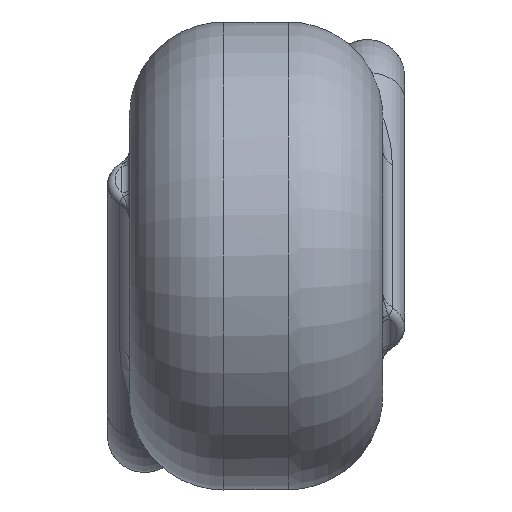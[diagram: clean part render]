
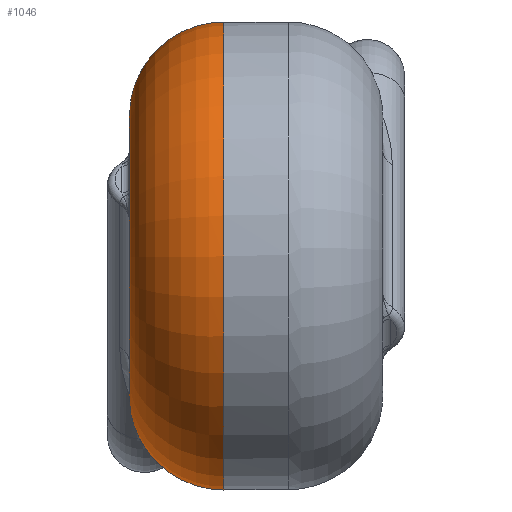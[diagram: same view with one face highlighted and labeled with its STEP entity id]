
A CAD part, left-side view. The second image highlights one B-rep face of the part: STEP entity #1046.
In plain terms, the highlighted toroidal (fillet/blend) face has major radius 3.7 mm and minor radius 2.5 mm.
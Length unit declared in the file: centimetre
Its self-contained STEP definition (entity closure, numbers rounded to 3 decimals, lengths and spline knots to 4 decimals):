
#746=CARTESIAN_POINT('',(0.2399,0.59,-0.2817));
#747=VERTEX_POINT('',#746);
#815=CARTESIAN_POINT('',(0.4211,0.3988,-0.4455));
#816=VERTEX_POINT('',#815);
#824=CARTESIAN_POINT('',(0.4211,0.3988,-0.4455));
#825=CARTESIAN_POINT('',(0.409,0.4099,-0.4532));
#826=CARTESIAN_POINT('',(0.3861,0.4358,-0.4626));
#827=CARTESIAN_POINT('',(0.3486,0.4928,-0.4544));
#828=CARTESIAN_POINT('',(0.3188,0.5473,-0.4091));
#829=CARTESIAN_POINT('',(0.2864,0.5824,-0.34));
#830=CARTESIAN_POINT('',(0.2579,0.59,-0.2988));
#831=CARTESIAN_POINT('',(0.2399,0.59,-0.2817));
#832=B_SPLINE_CURVE_WITH_KNOTS('',3,(#824,#825,#826,#827,#828,#829,#830,#831),.UNSPECIFIED.,.F.,.U.,(4,1,1,1,1,4),(-0.4599,-0.3942,-0.3285,-0.1971,-0.0986,0.),.UNSPECIFIED.);
#833=EDGE_CURVE('',#816,#747,#832,.T.);
#877=CARTESIAN_POINT('',(0.4993,0.3627,-0.3658));
#878=VERTEX_POINT('',#877);
#886=CARTESIAN_POINT('',(0.4993,0.3627,-0.3658));
#887=CARTESIAN_POINT('',(0.4752,0.3619,-0.3989));
#888=CARTESIAN_POINT('',(0.4466,0.3754,-0.4291));
#889=CARTESIAN_POINT('',(0.4211,0.3988,-0.4455));
#890=B_SPLINE_CURVE_WITH_KNOTS('',3,(#886,#887,#888,#889),.UNSPECIFIED.,.F.,.U.,(4,4),(-0.1391,0.),.UNSPECIFIED.);
#891=EDGE_CURVE('',#878,#816,#890,.T.);
#971=CARTESIAN_POINT('',(0.3682,0.59,-0.0364));
#972=VERTEX_POINT('',#971);
#980=CARTESIAN_POINT('',(0.3682,0.59,-0.0364));
#981=CARTESIAN_POINT('',(0.3837,0.59,-0.0569));
#982=CARTESIAN_POINT('',(0.4171,0.5861,-0.0926));
#983=CARTESIAN_POINT('',(0.4903,0.5559,-0.1397));
#984=CARTESIAN_POINT('',(0.5491,0.492,-0.1774));
#985=CARTESIAN_POINT('',(0.5606,0.4192,-0.24));
#986=CARTESIAN_POINT('',(0.5468,0.3865,-0.2848));
#987=CARTESIAN_POINT('',(0.5251,0.3678,-0.3277));
#988=CARTESIAN_POINT('',(0.511,0.3631,-0.3498));
#989=CARTESIAN_POINT('',(0.4993,0.3627,-0.3658));
#990=B_SPLINE_CURVE_WITH_KNOTS('',3,(#980,#981,#982,#983,#984,#985,#986,#987,#988,#989),.UNSPECIFIED.,.F.,.U.,(4,1,1,1,1,1,1,4),(-1.2245,-1.1351,-1.0458,-0.867,-0.7777,-0.6883,-0.666,-0.599),.UNSPECIFIED.);
#991=EDGE_CURVE('',#972,#878,#990,.T.);
#1018=CARTESIAN_POINT('',(0.0,0.34,0.0));
#1019=DIRECTION('',(0.0,1.0,0.0));
#1020=DIRECTION('',(1.0,0.0,0.0));
#1021=AXIS2_PLACEMENT_3D('',#1018,#1019,#1020);
#1022=TOROIDAL_SURFACE('',#1021,0.37,0.25);
#1023=CARTESIAN_POINT('',(0.62,0.34,0.));
#1024=VERTEX_POINT('',#1023);
#1025=CARTESIAN_POINT('',(0.0,0.34,0.0));
#1026=DIRECTION('',(0.0,1.0,0.0));
#1027=DIRECTION('',(-1.0,0.0,0.0));
#1028=AXIS2_PLACEMENT_3D('',#1025,#1026,#1027);
#1029=CIRCLE('',#1028,0.62);
#1030=EDGE_CURVE('',#1024,#1024,#1029,.T.);
#1031=ORIENTED_EDGE('',*,*,#1030,.T.);
#1032=EDGE_LOOP('',(#1031));
#1033=FACE_OUTER_BOUND('',#1032,.T.);
#1034=ORIENTED_EDGE('',*,*,#991,.F.);
#1035=CARTESIAN_POINT('',(0.0,0.59,0.0));
#1036=DIRECTION('',(0.0,-1.0,0.0));
#1037=DIRECTION('',(-1.0,0.0,0.0));
#1038=AXIS2_PLACEMENT_3D('',#1035,#1036,#1037);
#1039=CIRCLE('',#1038,0.37);
#1040=EDGE_CURVE('',#972,#747,#1039,.T.);
#1041=ORIENTED_EDGE('',*,*,#1040,.T.);
#1042=ORIENTED_EDGE('',*,*,#833,.F.);
#1043=ORIENTED_EDGE('',*,*,#891,.F.);
#1044=EDGE_LOOP('',(#1034,#1041,#1042,#1043));
#1045=FACE_BOUND('',#1044,.T.);
#1046=ADVANCED_FACE('',(#1033,#1045),#1022,.T.);
